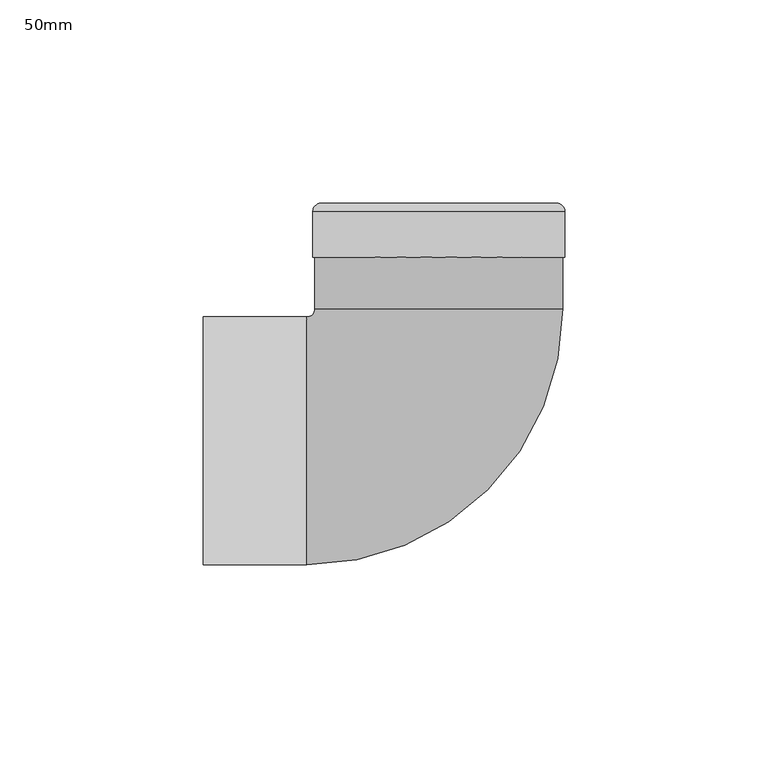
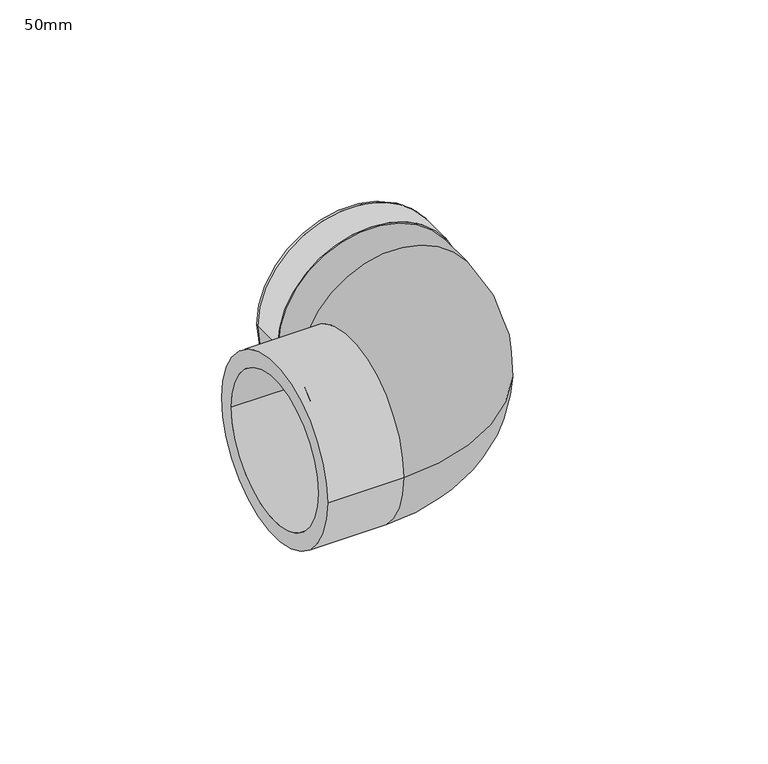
"""IFC4 building model written with IfcOpenShell, lengths in millimetres: pipe fitting geometry, Durapipe_PipeFitting_PVC_PlainThreadedElbows90Deg : 50mm."""

from ifc_helpers import new_model, si_unit, point, frame, origin, place, context, project, spatial, polyline, circle_curve, ellipse_curve, trimmed, source, transform, mapped, element, save
from ifc_brep_helpers import plane_surface, cylinder_surface, revolved_surface, advanced_brep


def pipe_fitting_50mm_d2743dc3(model_context):
    return source(origin(), model_context, "Body", "AdvancedBrep", [
        advanced_brep(
        [(-30.5, 45.2, 0.0), (30.5, 45.2, 0.0), (25.0, 45.2, 0.0), (-25.0, 45.2, 0.0), (-58.0, 30.5, 0.0), (-58.0, -30.5, 0.0), (-58.0, 25.0, 0.0), (-58.0, -25.0, 0.0), (-30.5, 32.5, 0.0), (30.5, 32.5, 0.0), (-32.5, 30.5, 0.0), (-32.5, -30.5, 0.0), (-27.0, -25.0, 0.0), (-27.0, 25.0, 0.0), (-25.0, 27.0, 0.0), (25.0, 27.0, 0.0)],
        [
            (0, 1, circle_curve(frame((0.0, 45.2, 0.0), z_axis=(0.0, 1.0, 0.0), x_axis=(1.0, 0.0, 0.0)), 30.5)),
            (1, 0, circle_curve(frame((0.0, 45.2, 0.0), z_axis=(0.0, 1.0, 0.0), x_axis=(1.0, 0.0, 0.0)), 30.5)),
            (2, 3, circle_curve(frame((0.0, 45.2, 0.0), z_axis=(0.0, -1.0, 0.0), x_axis=(1.0, 0.0, 0.0)), 25.0)),
            (3, 2, circle_curve(frame((0.0, 45.2, 0.0), z_axis=(0.0, -1.0, 0.0), x_axis=(1.0, 0.0, 0.0)), 25.0)),
            (4, 5, circle_curve(frame((-58.0, 0.0, 0.0), z_axis=(-1.0, 0.0, 0.0), x_axis=(0.0, -1.0, 0.0)), 30.5)),
            (5, 4, circle_curve(frame((-58.0, 0.0, 0.0), z_axis=(-1.0, 0.0, 0.0), x_axis=(0.0, -1.0, 0.0)), 30.5)),
            (6, 7, circle_curve(frame((-58.0, 0.0, 0.0), z_axis=(1.0, 0.0, 0.0), x_axis=(0.0, 1.0, 0.0)), 25.0)),
            (7, 6, circle_curve(frame((-58.0, 0.0, 0.0), z_axis=(1.0, 0.0, 0.0), x_axis=(0.0, 1.0, 0.0)), 25.0)),
            (0, 8),
            (8, 9, circle_curve(frame((0.0, 32.5, 0.0), z_axis=(0.0, 1.0, 0.0), x_axis=(1.0, 0.0, 0.0)), 30.5)),
            (9, 1),
            (9, 8, circle_curve(frame((0.0, 32.5, 0.0), z_axis=(0.0, 1.0, 0.0), x_axis=(1.0, 0.0, 0.0)), 30.5)),
            (8, 10, circle_curve(frame((-32.5, 32.5, 0.0), z_axis=(0.0, 0.0, -1.0), x_axis=(1.0, 0.0, 0.0)), 2.0)),
            (10, 11, circle_curve(frame((-32.5, 0.0, 0.0), z_axis=(1.0, 0.0, 0.0), x_axis=(0.0, -1.0, 0.0)), 30.5)),
            (11, 9, circle_curve(frame((-32.5, 32.5, 0.0), z_axis=(0.0, 0.0, 1.0), x_axis=(1.0, 0.0, 0.0)), 63.0)),
            (11, 10, circle_curve(frame((-32.5, 0.0, 0.0), z_axis=(1.0, 0.0, 0.0), x_axis=(0.0, -1.0, 0.0)), 30.5)),
            (5, 11),
            (10, 4),
            (12, 13, circle_curve(frame((-27.0, 0.0, 0.0), z_axis=(-1.0, 0.0, 0.0), x_axis=(0.0, 1.0, 0.0)), 25.0)),
            (13, 12, circle_curve(frame((-27.0, 0.0, 0.0), z_axis=(-1.0, 0.0, 0.0), x_axis=(0.0, 1.0, 0.0)), 25.0)),
            (12, 7),
            (6, 13),
            (14, 15, circle_curve(frame((0.0, 27.0, 0.0), z_axis=(0.0, 1.0, 0.0), x_axis=(1.0, 0.0, 0.0)), 25.0)),
            (15, 14, circle_curve(frame((0.0, 27.0, 0.0), z_axis=(0.0, 1.0, 0.0), x_axis=(1.0, 0.0, 0.0)), 25.0)),
            (14, 3),
            (2, 15),
        ],
        [
            plane_surface(frame((0.0, 45.2, 0.0), z_axis=(0.0, 1.0, 0.0), x_axis=(0.0, 0.0, 1.0))),
            plane_surface(frame((-58.0, 0.0, 0.0), z_axis=(-1.0, 0.0, 0.0), x_axis=(0.0, 0.0, 1.0))),
            cylinder_surface(frame((0.0, 45.2, 0.0), z_axis=(0.0, 1.0, 0.0), x_axis=(1.0, 0.0, 0.0)), 30.5),
            revolved_surface(trimmed(ellipse_curve(frame((0.0, 32.5, 0.0), z_axis=(0.0, 1.0, 0.0), x_axis=(1.0, 0.0, 0.0)), 30.5, 30.5), [point((-30.5, 32.5, 0.0))], [point((30.5, 32.5, 0.0))], True, "CARTESIAN"), (-32.5, 32.5, 0.0), (0.0, 0.0, -1.0)),
            revolved_surface(trimmed(ellipse_curve(frame((0.0, 32.5, 0.0), z_axis=(0.0, 1.0, 0.0), x_axis=(1.0, 0.0, 0.0)), 30.5, 30.5), [point((30.5, 32.5, 0.0))], [point((-30.5, 32.5, 0.0))], True, "CARTESIAN"), (-32.5, 32.5, 0.0), (0.0, 0.0, -1.0)),
            cylinder_surface(frame((-32.5, 0.0, 0.0), z_axis=(1.0, 0.0, 0.0), x_axis=(0.0, -1.0, 0.0)), 30.5),
            plane_surface(frame((-27.0, 0.0, 0.0), z_axis=(-1.0, 0.0, 0.0), x_axis=(0.0, 0.0, 1.0))),
            revolved_surface(polyline([(-58.0, 25.0, 0.0), (-27.0, 25.0, 0.0)]), (-58.0, 0.0, 0.0), (-1.0, 0.0, 0.0)),
            plane_surface(frame((0.0, 27.0, 0.0), z_axis=(0.0, 1.0, 0.0), x_axis=(0.0, 0.0, 1.0))),
            revolved_surface(polyline([(25.0, 45.2, 0.0), (25.0, 27.0, 0.0)]), (0.0, 58.5, 0.0), (0.0, 1.0, 0.0)),
        ],
        [
            (0, [[1, 2], [3, 4]]),
            (1, [[5, 6], [7, 8]]),
            (2, [[-1, 9, 10, 11]]),
            (2, [[-2, -11, 12, -9]]),
            (3, [[-10, 13, 14, 15]]),
            (4, [[-12, -15, 16, -13]]),
            (5, [[-6, 17, -14, 18]]),
            (5, [[-5, -18, -16, -17]]),
            (6, [[19, 20]]),
            (7, [[-19, 21, -7, 22]]),
            (7, [[-20, -22, -8, -21]]),
            (8, [[23, 24]]),
            (9, [[-23, 25, -3, 26]]),
            (9, [[-24, -26, -4, -25]]),
        ],
    ),
        advanced_brep(
        [(28.9754699, 58.5, 0.0), (-28.9754699, 58.5, 0.0), (-25.0, 58.5, 0.0), (25.0, 58.5, 0.0), (31.0, 56.4754699, 0.0), (-31.0, 56.4754699, 0.0), (31.0, 45.2, 0.0), (-31.0, 45.2, 0.0), (25.0, 45.2, 0.0), (-25.0, 45.2, 0.0)],
        [
            (0, 1, circle_curve(frame((0.0, 58.5, 0.0), z_axis=(0.0, 1.0, 0.0), x_axis=(-1.0, 0.0, 0.0)), 28.9754699)),
            (1, 2),
            (2, 3, circle_curve(frame((0.0, 58.5, 0.0), z_axis=(0.0, -1.0, 0.0), x_axis=(-1.0, 0.0, 0.0)), 25.0)),
            (3, 0),
            (1, 0, circle_curve(frame((0.0, 58.5, 0.0), z_axis=(0.0, 1.0, 0.0), x_axis=(-1.0, 0.0, 0.0)), 28.9754699)),
            (3, 2, circle_curve(frame((0.0, 58.5, 0.0), z_axis=(0.0, -1.0, 0.0), x_axis=(-1.0, 0.0, 0.0)), 25.0)),
            (4, 5, circle_curve(frame((0.0, 56.4754699, 0.0), z_axis=(0.0, 1.0, 0.0), x_axis=(-1.0, 0.0, 0.0)), 31.0)),
            (5, 1, circle_curve(frame((-28.9754699, 56.4754699, 0.0), z_axis=(0.0, 0.0, -1.0), x_axis=(1.0, 0.0, 0.0)), 2.0245301)),
            (0, 4, circle_curve(frame((28.9754699, 56.4754699, 0.0), z_axis=(0.0, 0.0, -1.0), x_axis=(-1.0, 0.0, 0.0)), 2.0245301)),
            (5, 4, circle_curve(frame((0.0, 56.4754699, 0.0), z_axis=(0.0, 1.0, 0.0), x_axis=(-1.0, 0.0, 0.0)), 31.0)),
            (6, 7, circle_curve(frame((0.0, 45.2, 0.0), z_axis=(0.0, 1.0, 0.0), x_axis=(-1.0, 0.0, 0.0)), 31.0)),
            (7, 5),
            (4, 6),
            (7, 6, circle_curve(frame((0.0, 45.2, 0.0), z_axis=(0.0, 1.0, 0.0), x_axis=(-1.0, 0.0, 0.0)), 31.0)),
            (8, 9, circle_curve(frame((0.0, 45.2, 0.0), z_axis=(0.0, 1.0, 0.0), x_axis=(-1.0, 0.0, 0.0)), 25.0)),
            (9, 7),
            (6, 8),
            (9, 8, circle_curve(frame((0.0, 45.2, 0.0), z_axis=(0.0, 1.0, 0.0), x_axis=(-1.0, 0.0, 0.0)), 25.0)),
            (2, 9),
            (8, 3),
        ],
        [
            plane_surface(frame((0.0, 58.5, 0.0), z_axis=(0.0, 1.0, 0.0), x_axis=(-1.0, 0.0, 0.0))),
            revolved_surface(trimmed(ellipse_curve(frame((-28.9754699, 56.4754699, 0.0), z_axis=(0.0, 0.0, 1.0), x_axis=(1.0, 0.0, 0.0)), 2.0245301, 2.0245301), [point((-28.9754699, 58.5, 0.0))], [point((-31.0, 56.4754699, 0.0))], True, "CARTESIAN"), (0.0, 71.2371208, 0.0), (0.0, -1.0, 0.0)),
            cylinder_surface(frame((0.0, 71.2371208, 0.0), z_axis=(0.0, -1.0, 0.0), x_axis=(-1.0, 0.0, 0.0)), 31.0),
            plane_surface(frame((0.0, 45.2, 0.0), z_axis=(0.0, -1.0, 0.0), x_axis=(-1.0, 0.0, 0.0))),
            revolved_surface(polyline([(-25.0, 45.2, 0.0), (-25.0, 58.5, 0.0)]), (0.0, 71.2371208, 0.0), (0.0, -1.0, 0.0)),
        ],
        [
            (0, [[1, 2, 3, 4]]),
            (0, [[5, -4, 6, -2]]),
            (1, [[7, 8, -1, 9]]),
            (1, [[10, -9, -5, -8]]),
            (2, [[11, 12, -7, 13]]),
            (2, [[14, -13, -10, -12]]),
            (3, [[15, 16, -11, 17]]),
            (3, [[18, -17, -14, -16]]),
            (4, [[-3, 19, -15, 20]]),
            (4, [[-6, -20, -18, -19]]),
        ],
    ),
    ])


if __name__ == "__main__":
    model = new_model("IFC4")
    model_context = context("Model", 3, world=origin())
    ifc_project = project(units=[si_unit("LENGTHUNIT", "METRE", prefix="MILLI")], contexts=[model_context])
    site = spatial("IfcSite", under=ifc_project)
    building = spatial("IfcBuilding", under=site)
    placement = place(None, origin())
    pipe_fitting_50mm_shape = pipe_fitting_50mm_d2743dc3(model_context)
    element("IfcPipeFitting", 1, ObjectType="Durapipe_PipeFitting_PVC_PlainThreadedElbows90Deg : 50mm", at=placement, inside=building, context=model_context, shape_type="MappedRepresentation", body=[
        mapped(pipe_fitting_50mm_shape, transform((0.0, 0.0, 0.0), x_axis=(1.0, 0.0, 0.0), y_axis=(0.0, 1.0, 0.0), z_axis=(0.0, 0.0, 1.0))),
    ])
    save(model, "model.ifc")
